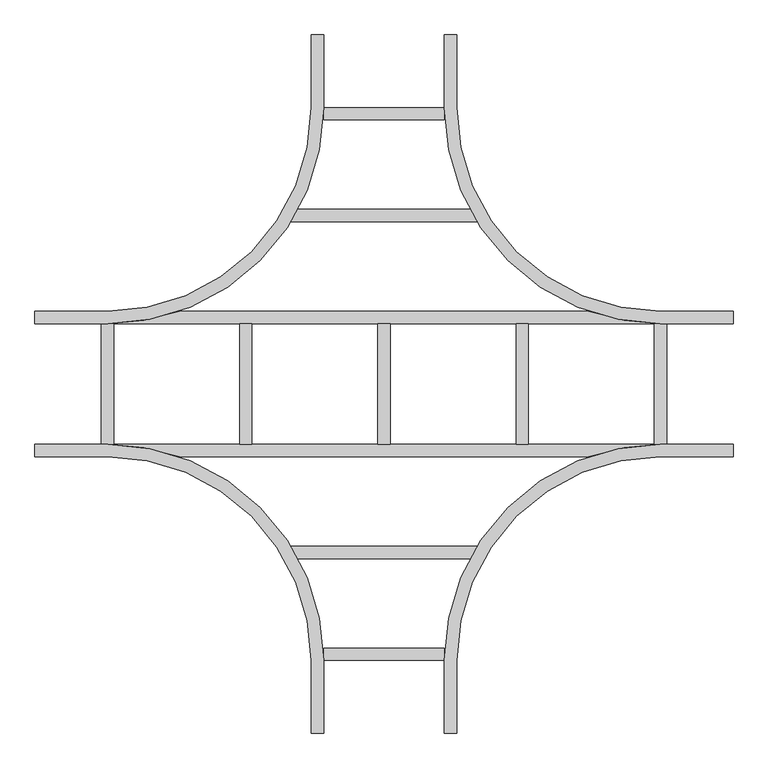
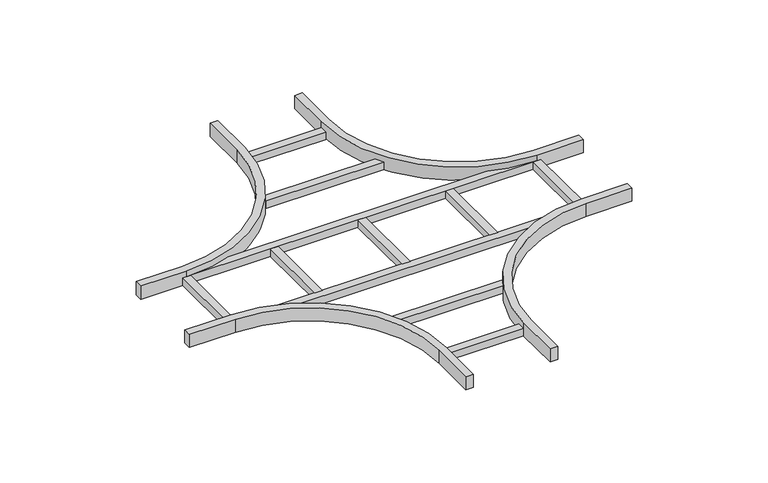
"""IFC4 building model written with IfcOpenShell, lengths in millimetres: cable carrier fitting geometry, BAKS_LD_CROSS_Horizontal cross over_CZD : CZDC_H45."""

from ifc_helpers import new_model, si_unit, frame, origin, place, context, project, spatial, polyline, circle_curve, outline, extrude, source, transform, mapped, element, save
from ifc_brep_helpers import plane_surface, cylinder_surface, revolved_surface, advanced_brep


def cable_carrier_fitting_edb32cbd(model_context):
    return source(origin(), model_context, "Body", "SolidModel", [
        extrude(outline(polyline([(191.8889052, -334.6), (191.8889052, -360.0), (-191.8889052, -360.0), (-191.8889052, -334.6), (191.8889052, -334.6)])), frame((0.0, 0.0, -22.5), z_axis=(0.0, 0.0, 1.0), x_axis=(1.0, 0.0, 0.0)), (0.0, 0.0, 1.0), 25.4),
        extrude(outline(polyline([(191.8889052, 360.0), (191.8889052, 334.6), (-191.8889052, 334.6), (-191.8889052, 360.0), (191.8889052, 360.0)])), frame((0.0, 0.0, -22.5), z_axis=(0.0, 0.0, 1.0), x_axis=(1.0, 0.0, 0.0)), (0.0, 0.0, 1.0), 25.4),
        extrude(outline(polyline([(124.6, -544.6), (124.6, -570.0), (-124.6, -570.0), (-124.6, -544.6), (124.6, -544.6)])), frame((0.0, 0.0, -22.5), z_axis=(0.0, 0.0, 1.0), x_axis=(1.0, 0.0, 0.0)), (0.0, 0.0, 1.0), 25.4),
        extrude(outline(polyline([(124.6, 570.0), (124.6, 544.6), (-124.6, 544.6), (-124.6, 570.0), (124.6, 570.0)])), frame((0.0, 0.0, -22.5), z_axis=(0.0, 0.0, 1.0), x_axis=(1.0, 0.0, 0.0)), (0.0, 0.0, 1.0), 25.4),
        extrude(outline(polyline([(582.7, 124.6), (582.7, -124.6), (557.3, -124.6), (557.3, 124.6), (582.7, 124.6)])), frame((0.0, 0.0, -22.5), z_axis=(0.0, 0.0, 1.0), x_axis=(1.0, 0.0, 0.0)), (0.0, 0.0, 1.0), 25.4),
        extrude(outline(polyline([(297.7, 124.6), (297.7, -124.6), (272.3, -124.6), (272.3, 124.6), (297.7, 124.6)])), frame((0.0, 0.0, -22.5), z_axis=(0.0, 0.0, 1.0), x_axis=(1.0, 0.0, 0.0)), (0.0, 0.0, 1.0), 25.4),
        extrude(outline(polyline([(12.7, 124.6), (12.7, -124.6), (-12.7, -124.6), (-12.7, 124.6), (12.7, 124.6)])), frame((0.0, 0.0, -22.5), z_axis=(0.0, 0.0, 1.0), x_axis=(1.0, 0.0, 0.0)), (0.0, 0.0, 1.0), 25.4),
        extrude(outline(polyline([(-272.3, 124.6), (-272.3, -124.6), (-297.7, -124.6), (-297.7, 124.6), (-272.3, 124.6)])), frame((0.0, 0.0, -22.5), z_axis=(0.0, 0.0, 1.0), x_axis=(1.0, 0.0, 0.0)), (0.0, 0.0, 1.0), 25.4),
        extrude(outline(polyline([(-557.3, 124.6), (-557.3, -124.6), (-582.7, -124.6), (-582.7, 124.6), (-557.3, 124.6)])), frame((0.0, 0.0, -22.5), z_axis=(0.0, 0.0, 1.0), x_axis=(1.0, 0.0, 0.0)), (0.0, 0.0, 1.0), 25.4),
        advanced_brep(
        [(-150.0, -570.0, 22.5), (-150.0, -720.0, 22.5), (-124.6, -720.0, 22.5), (-124.6, -570.0, 22.5), (-570.0, -124.6, 22.5), (-720.0, -124.6, 22.5), (-720.0, -150.0, 22.5), (-570.0, -150.0, 22.5), (150.0, -570.0, 22.5), (570.0, -150.0, 22.5), (720.0, -150.0, 22.5), (720.0, -124.6, 22.5), (570.0, -124.6, 22.5), (124.6, -570.0, 22.5), (124.6, -720.0, 22.5), (150.0, -720.0, 22.5), (-150.0, -570.0, -22.5), (-570.0, -150.0, -22.5), (-720.0, -150.0, -22.5), (-720.0, -124.6, -22.5), (720.0, -124.6, -22.5), (720.0, -150.0, -22.5), (570.0, -150.0, -22.5), (150.0, -570.0, -22.5), (150.0, -720.0, -22.5), (124.6, -720.0, -22.5), (124.6, -570.0, -22.5), (421.7395535, -150.0, -22.5), (-421.7395535, -150.0, -22.5), (-124.6, -570.0, -22.5), (-124.6, -720.0, -22.5), (-150.0, -720.0, -22.5), (-421.7395535, -150.0, 2.9), (-570.0, -124.6, 2.9), (570.0, -124.6, 2.9), (-570.0, -150.0, 2.9), (570.0, -150.0, 2.9), (421.7395535, -150.0, 2.9)],
        [
            (0, 1),
            (1, 2),
            (2, 3),
            (3, 4, circle_curve(frame((-570.0, -570.0, 22.5), z_axis=(0.0, 0.0, 1.0), x_axis=(1.0, 0.0, 0.0)), 445.4)),
            (4, 5),
            (5, 6),
            (6, 7),
            (7, 0, circle_curve(frame((-570.0, -570.0, 22.5), z_axis=(0.0, 0.0, -1.0), x_axis=(1.0, 0.0, 0.0)), 420.0)),
            (8, 9, circle_curve(frame((570.0, -570.0, 22.5), z_axis=(0.0, 0.0, -1.0), x_axis=(1.0, 0.0, 0.0)), 420.0)),
            (9, 10),
            (10, 11),
            (11, 12),
            (12, 13, circle_curve(frame((570.0, -570.0, 22.5), z_axis=(0.0, 0.0, 1.0), x_axis=(1.0, 0.0, 0.0)), 445.4)),
            (13, 14),
            (14, 15),
            (15, 8),
            (16, 17, circle_curve(frame((-570.0, -570.0, -22.5), z_axis=(0.0, 0.0, 1.0), x_axis=(1.0, 0.0, 0.0)), 420.0)),
            (17, 18),
            (18, 19),
            (19, 20),
            (20, 21),
            (21, 22),
            (22, 23, circle_curve(frame((570.0, -570.0, -22.5), z_axis=(0.0, 0.0, 1.0), x_axis=(1.0, 0.0, 0.0)), 420.0)),
            (23, 24),
            (24, 25),
            (25, 26),
            (26, 27, circle_curve(frame((570.0, -570.0, -22.5), z_axis=(0.0, 0.0, -1.0), x_axis=(1.0, 0.0, 0.0)), 445.4)),
            (27, 28),
            (28, 29, circle_curve(frame((-570.0, -570.0, -22.5), z_axis=(0.0, 0.0, -1.0), x_axis=(1.0, 0.0, 0.0)), 445.4)),
            (29, 30),
            (30, 31),
            (31, 16),
            (0, 16),
            (31, 1),
            (30, 2),
            (29, 3),
            (28, 32),
            (32, 33, circle_curve(frame((-570.0, -570.0, 2.9), z_axis=(0.0, 0.0, 1.0), x_axis=(1.0, 0.0, 0.0)), 445.4)),
            (33, 4),
            (33, 34),
            (34, 12),
            (11, 20),
            (19, 5),
            (18, 6),
            (17, 35),
            (35, 7),
            (8, 23),
            (22, 36),
            (36, 9),
            (21, 10),
            (34, 37, circle_curve(frame((570.0, -570.0, 2.9), z_axis=(0.0, 0.0, 1.0), x_axis=(1.0, 0.0, 0.0)), 445.4)),
            (37, 27),
            (26, 13),
            (25, 14),
            (24, 15),
            (32, 37),
        ],
        [
            plane_surface(frame((-150.0, -570.0, 22.5), z_axis=(0.0, 0.0, 1.0), x_axis=(0.0, -1.0, 0.0))),
            plane_surface(frame((-150.0, -570.0, -22.5), z_axis=(0.0, 0.0, -1.0), x_axis=(0.0, 1.0, 0.0))),
            plane_surface(frame((-150.0, -570.0, 22.5), z_axis=(-1.0, 0.0, 0.0), x_axis=(0.0, 0.0, -1.0))),
            plane_surface(frame((-150.0, -720.0, 22.5), z_axis=(0.0, -1.0, 0.0), x_axis=(0.0, 0.0, -1.0))),
            plane_surface(frame((-124.6, -720.0, 22.5), z_axis=(1.0, 0.0, 0.0), x_axis=(0.0, 0.0, -1.0))),
            cylinder_surface(frame((-570.0, -570.0, -22.5), z_axis=(0.0, 0.0, 1.0), x_axis=(1.0, 0.0, 0.0)), 445.4),
            plane_surface(frame((-570.0, -124.6, 22.5), z_axis=(0.0, 1.0, 0.0), x_axis=(0.0, 0.0, -1.0))),
            plane_surface(frame((-720.0, -124.6, 22.5), z_axis=(-1.0, 0.0, 0.0), x_axis=(0.0, 0.0, -1.0))),
            plane_surface(frame((-720.0, -150.0, 22.5), z_axis=(0.0, -1.0, 0.0), x_axis=(0.0, 0.0, -1.0))),
            revolved_surface(polyline([(-150.0, -570.0, -22.5), (-150.0, -570.0, 22.5)]), (-570.0, -570.0, -22.5), (0.0, 0.0, -1.0)),
            revolved_surface(polyline([(990.0, -570.0, -22.5), (990.0, -570.0, 22.5)]), (570.0, -570.0, 0.0), (0.0, 0.0, -1.0)),
            plane_surface(frame((570.0, -150.0, 22.5), z_axis=(0.0, -1.0, 0.0), x_axis=(0.0, 0.0, -1.0))),
            plane_surface(frame((720.0, -150.0, 22.5), z_axis=(1.0, 0.0, 0.0), x_axis=(0.0, 0.0, -1.0))),
            cylinder_surface(frame((570.0, -570.0, 0.0), z_axis=(0.0, 0.0, 1.0), x_axis=(1.0, 0.0, 0.0)), 445.4),
            plane_surface(frame((124.6, -570.0, 22.5), z_axis=(-1.0, 0.0, 0.0), x_axis=(0.0, 0.0, -1.0))),
            plane_surface(frame((124.6, -720.0, 22.5), z_axis=(0.0, -1.0, 0.0), x_axis=(0.0, 0.0, -1.0))),
            plane_surface(frame((150.0, -720.0, 22.5), z_axis=(1.0, 0.0, 0.0), x_axis=(0.0, 0.0, -1.0))),
            plane_surface(frame((-570.0, -124.6, 2.9), z_axis=(0.0, 0.0, 1.0), x_axis=(-1.0, 0.0, 0.0))),
            plane_surface(frame((-570.0, -150.0, 2.9), z_axis=(0.0, -1.0, 0.0), x_axis=(0.0, 0.0, -1.0))),
        ],
        [
            (0, [[1, 2, 3, 4, 5, 6, 7, 8]]),
            (0, [[9, 10, 11, 12, 13, 14, 15, 16]]),
            (1, [[17, 18, 19, 20, 21, 22, 23, 24, 25, 26, 27, 28, 29, 30, 31, 32]]),
            (2, [[-1, 33, -32, 34]]),
            (3, [[-2, -34, -31, 35]]),
            (4, [[-3, -35, -30, 36]]),
            (5, [[-4, -36, -29, 37, 38, 39]]),
            (6, [[-5, -39, 40, 41, -12, 42, -20, 43]]),
            (7, [[-6, -43, -19, 44]]),
            (8, [[-7, -44, -18, 45, 46]]),
            (9, [[-8, -46, -45, -17, -33]]),
            (10, [[-9, 47, -23, 48, 49]]),
            (11, [[-10, -49, -48, -22, 50]]),
            (12, [[-11, -50, -21, -42]]),
            (13, [[-13, -41, 51, 52, -27, 53]]),
            (14, [[-14, -53, -26, 54]]),
            (15, [[-15, -54, -25, 55]]),
            (16, [[-16, -55, -24, -47]]),
            (17, [[-40, -38, 56, -51]]),
            (18, [[-28, -52, -56, -37]]),
        ],
    ),
        advanced_brep(
        [(-124.6, 570.0, 22.5), (-124.6, 720.0, 22.5), (-150.0, 720.0, 22.5), (-150.0, 570.0, 22.5), (-570.0, 150.0, 22.5), (-720.0, 150.0, 22.5), (-720.0, 124.6, 22.5), (-570.0, 124.6, 22.5), (124.6, 570.0, 22.5), (570.0, 124.6, 22.5), (720.0, 124.6, 22.5), (720.0, 150.0, 22.5), (570.0, 150.0, 22.5), (150.0, 570.0, 22.5), (150.0, 720.0, 22.5), (124.6, 720.0, 22.5), (-720.0, 124.6, -22.5), (-720.0, 150.0, -22.5), (-570.0, 150.0, -22.5), (-150.0, 570.0, -22.5), (-150.0, 720.0, -22.5), (-124.6, 720.0, -22.5), (-124.6, 570.0, -22.5), (-421.7395535, 150.0, -22.5), (421.7395535, 150.0, -22.5), (124.6, 570.0, -22.5), (124.6, 720.0, -22.5), (150.0, 720.0, -22.5), (150.0, 570.0, -22.5), (570.0, 150.0, -22.5), (720.0, 150.0, -22.5), (720.0, 124.6, -22.5), (-570.0, 124.6, 2.9), (570.0, 124.6, 2.9), (421.7395535, 150.0, 2.9), (-421.7395535, 150.0, 2.9), (-570.0, 150.0, 2.9), (570.0, 150.0, 2.9)],
        [
            (0, 1),
            (1, 2),
            (2, 3),
            (3, 4, circle_curve(frame((-570.0, 570.0, 22.5), z_axis=(0.0, 0.0, -1.0), x_axis=(1.0, 0.0, 0.0)), 420.0)),
            (4, 5),
            (5, 6),
            (6, 7),
            (7, 0, circle_curve(frame((-570.0, 570.0, 22.5), z_axis=(0.0, 0.0, 1.0), x_axis=(1.0, 0.0, 0.0)), 445.4)),
            (8, 9, circle_curve(frame((570.0, 570.0, 22.5), z_axis=(0.0, 0.0, 1.0), x_axis=(1.0, 0.0, 0.0)), 445.4)),
            (9, 10),
            (10, 11),
            (11, 12),
            (12, 13, circle_curve(frame((570.0, 570.0, 22.5), z_axis=(0.0, 0.0, -1.0), x_axis=(1.0, 0.0, 0.0)), 420.0)),
            (13, 14),
            (14, 15),
            (15, 8),
            (16, 17),
            (17, 18),
            (18, 19, circle_curve(frame((-570.0, 570.0, -22.5), z_axis=(0.0, 0.0, 1.0), x_axis=(1.0, 0.0, 0.0)), 420.0)),
            (19, 20),
            (20, 21),
            (21, 22),
            (22, 23, circle_curve(frame((-570.0, 570.0, -22.5), z_axis=(0.0, 0.0, -1.0), x_axis=(1.0, 0.0, 0.0)), 445.4)),
            (23, 24),
            (24, 25, circle_curve(frame((570.0, 570.0, -22.5), z_axis=(0.0, 0.0, -1.0), x_axis=(1.0, 0.0, 0.0)), 445.4)),
            (25, 26),
            (26, 27),
            (27, 28),
            (28, 29, circle_curve(frame((570.0, 570.0, -22.5), z_axis=(0.0, 0.0, 1.0), x_axis=(1.0, 0.0, 0.0)), 420.0)),
            (29, 30),
            (30, 31),
            (31, 16),
            (32, 33),
            (33, 34, circle_curve(frame((570.0, 570.0, 2.9), z_axis=(0.0, 0.0, -1.0), x_axis=(1.0, 0.0, 0.0)), 445.4)),
            (34, 35),
            (35, 32, circle_curve(frame((-570.0, 570.0, 2.9), z_axis=(0.0, 0.0, -1.0), x_axis=(1.0, 0.0, 0.0)), 445.4)),
            (0, 22),
            (21, 1),
            (20, 2),
            (19, 3),
            (18, 36),
            (36, 4),
            (17, 5),
            (16, 6),
            (31, 10),
            (9, 33),
            (32, 7),
            (35, 23),
            (8, 25),
            (24, 34),
            (30, 11),
            (29, 37),
            (37, 12),
            (28, 13),
            (27, 14),
            (26, 15),
        ],
        [
            plane_surface(frame((-150.0, -570.0, 22.5), z_axis=(0.0, 0.0, 1.0), x_axis=(0.0, -1.0, 0.0))),
            plane_surface(frame((-150.0, -570.0, -22.5), z_axis=(0.0, 0.0, -1.0), x_axis=(0.0, 1.0, 0.0))),
            plane_surface(frame((-570.0, -124.6, 2.9), z_axis=(0.0, 0.0, 1.0), x_axis=(-1.0, 0.0, 0.0))),
            plane_surface(frame((-124.6, 570.0, 22.5), z_axis=(1.0, 0.0, 0.0), x_axis=(0.0, 0.0, -1.0))),
            plane_surface(frame((-124.6, 720.0, 22.5), z_axis=(0.0, 1.0, 0.0), x_axis=(0.0, 0.0, -1.0))),
            plane_surface(frame((-150.0, 720.0, 22.5), z_axis=(-1.0, 0.0, 0.0), x_axis=(0.0, 0.0, -1.0))),
            revolved_surface(polyline([(-150.0, 570.0, -22.5), (-150.0, 570.0, 22.5)]), (-570.0, 570.0, 0.0), (0.0, 0.0, -1.0)),
            plane_surface(frame((-570.0, 150.0, 22.5), z_axis=(0.0, 1.0, 0.0), x_axis=(0.0, 0.0, -1.0))),
            plane_surface(frame((-720.0, 150.0, 22.5), z_axis=(-1.0, 0.0, 0.0), x_axis=(0.0, 0.0, -1.0))),
            plane_surface(frame((-720.0, 124.6, 22.5), z_axis=(0.0, -1.0, 0.0), x_axis=(0.0, 0.0, -1.0))),
            cylinder_surface(frame((-570.0, 570.0, 0.0), z_axis=(0.0, 0.0, 1.0), x_axis=(1.0, 0.0, 0.0)), 445.4),
            cylinder_surface(frame((570.0, 570.0, 0.0), z_axis=(0.0, 0.0, 1.0), x_axis=(1.0, 0.0, 0.0)), 445.4),
            plane_surface(frame((720.0, 124.6, 22.5), z_axis=(1.0, 0.0, 0.0), x_axis=(0.0, 0.0, -1.0))),
            plane_surface(frame((720.0, 150.0, 22.5), z_axis=(0.0, 1.0, 0.0), x_axis=(0.0, 0.0, -1.0))),
            revolved_surface(polyline([(990.0, 570.0, -22.5), (990.0, 570.0, 22.5)]), (570.0, 570.0, 0.0), (0.0, 0.0, -1.0)),
            plane_surface(frame((150.0, 570.0, 22.5), z_axis=(1.0, 0.0, 0.0), x_axis=(0.0, 0.0, -1.0))),
            plane_surface(frame((150.0, 720.0, 22.5), z_axis=(0.0, 1.0, 0.0), x_axis=(0.0, 0.0, -1.0))),
            plane_surface(frame((124.6, 720.0, 22.5), z_axis=(-1.0, 0.0, 0.0), x_axis=(0.0, 0.0, -1.0))),
            plane_surface(frame((570.0, 150.0, 2.9), z_axis=(0.0, 1.0, 0.0), x_axis=(0.0, 0.0, -1.0))),
        ],
        [
            (0, [[1, 2, 3, 4, 5, 6, 7, 8]]),
            (0, [[9, 10, 11, 12, 13, 14, 15, 16]]),
            (1, [[17, 18, 19, 20, 21, 22, 23, 24, 25, 26, 27, 28, 29, 30, 31, 32]]),
            (2, [[33, 34, 35, 36]]),
            (3, [[-1, 37, -22, 38]]),
            (4, [[-2, -38, -21, 39]]),
            (5, [[-3, -39, -20, 40]]),
            (6, [[-4, -40, -19, 41, 42]]),
            (7, [[-5, -42, -41, -18, 43]]),
            (8, [[-6, -43, -17, 44]]),
            (9, [[-7, -44, -32, 45, -10, 46, -33, 47]]),
            (10, [[-8, -47, -36, 48, -23, -37]]),
            (11, [[-9, 49, -25, 50, -34, -46]]),
            (12, [[-11, -45, -31, 51]]),
            (13, [[-12, -51, -30, 52, 53]]),
            (14, [[-13, -53, -52, -29, 54]]),
            (15, [[-14, -54, -28, 55]]),
            (16, [[-15, -55, -27, 56]]),
            (17, [[-16, -56, -26, -49]]),
            (18, [[-24, -48, -35, -50]]),
        ],
    ),
    ])


if __name__ == "__main__":
    model = new_model("IFC4")
    model_context = context("Model", 3, world=origin())
    ifc_project = project(units=[si_unit("LENGTHUNIT", "METRE", prefix="MILLI")], contexts=[model_context])
    site = spatial("IfcSite", under=ifc_project)
    building = spatial("IfcBuilding", under=site)
    placement = place(None, origin())
    cable_carrier_fitting_shape = cable_carrier_fitting_edb32cbd(model_context)
    element("IfcCableCarrierFitting", 1, ObjectType="BAKS_LD_CROSS_Horizontal cross over_CZD : CZDC_H45", at=placement, inside=building, context=model_context, shape_type="MappedRepresentation", body=[
        mapped(cable_carrier_fitting_shape, transform((0.0, 0.0, 0.0), x_axis=(1.0, 0.0, 0.0), y_axis=(0.0, 1.0, 0.0), z_axis=(0.0, 0.0, 1.0))),
    ])
    save(model, "model.ifc")
